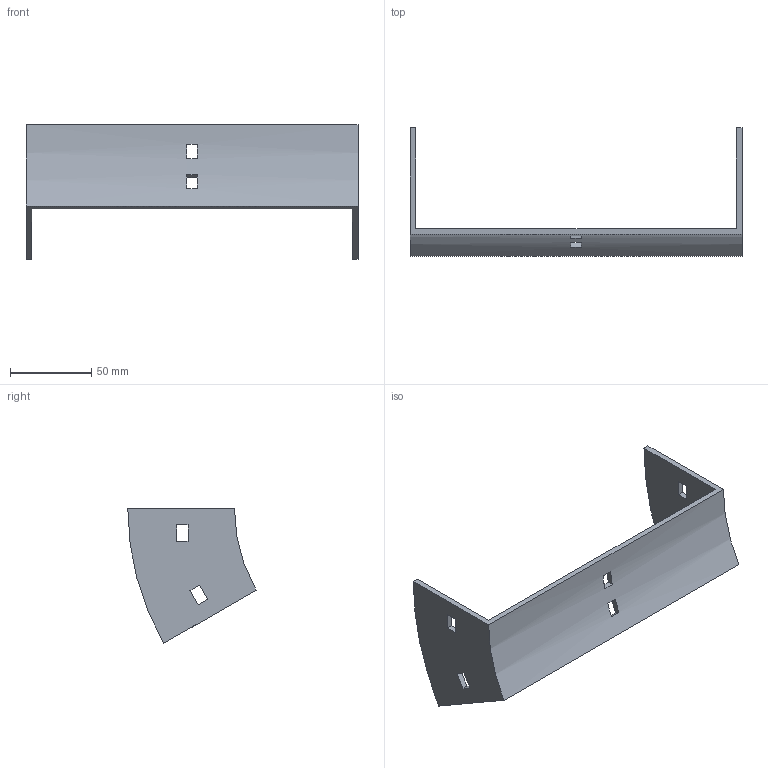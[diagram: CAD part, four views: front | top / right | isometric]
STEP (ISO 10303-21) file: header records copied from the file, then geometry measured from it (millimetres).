
FILE_DESCRIPTION (( 'STEP AP214' ), '1' );
FILE_NAME ('35B1H200.step', '2025-02-21T09:25:58', ( '' ), ( '' ), 'SwSTEP 2.0', 'SolidWorks 2023', '' );
FILE_SCHEMA (( 'AUTOMOTIVE_DESIGN' ));
Length unit declared in the file: millimetre
Products named in the file (1): 35B1H200
Bounding box: 204 x 78.9 x 82.75 mm (x, y, z)
Volume: 67208.1 mm3; surface area: 41996.8 mm2
Topology: 1 solids, 1 shells, 34 faces, 96 edges, 64 vertices
Faces by surface type: plane 30, cylinder 4
Entity records: 1143 total; most frequent: CARTESIAN_POINT 195, ORIENTED_EDGE 192, DIRECTION 182, EDGE_CURVE 96, VECTOR 80, LINE 80, VERTEX_POINT 64, AXIS2_PLACEMENT_3D 51
